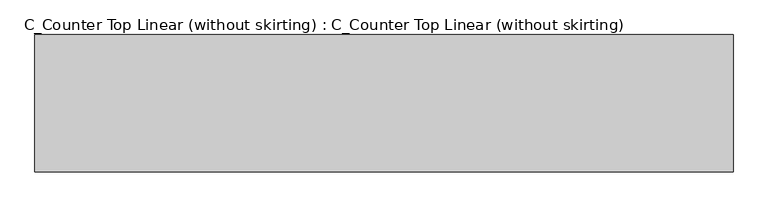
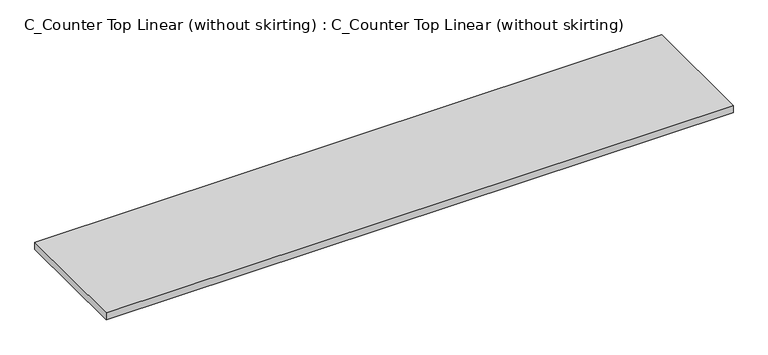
"""IFC4 building model written with IfcOpenShell, lengths in millimetres: furniture geometry, C_Counter Top Linear (without skirting) : C_Counter Top Linear (without skirting)."""

from ifc_helpers import new_model, si_unit, origin, origin_with_axes, place, context, project, spatial, polyline, outline, extrude, source, transform, mapped, element, save


def c_counter_top_linear_without_skirting_c_counter_top_linear_fa51e166(model_context):
    return source(origin(), model_context, "Body", "SweptSolid", [
        extrude(outline(polyline([(1612.9, 0.0), (-1612.9, 0.0), (-1612.9, 635.0), (1612.9, 635.0), (1612.9, 0.0)])), origin_with_axes(), (0.0, 0.0, 1.0), 38.1),
    ])


if __name__ == "__main__":
    model = new_model("IFC4")
    model_context = context("Model", 3, world=origin())
    ifc_project = project(units=[si_unit("LENGTHUNIT", "METRE", prefix="MILLI")], contexts=[model_context])
    site = spatial("IfcSite", under=ifc_project)
    building = spatial("IfcBuilding", under=site)
    placement = place(None, origin())
    c_counter_top_linear_without_skirting_c_counter_top_linear_shape = c_counter_top_linear_without_skirting_c_counter_top_linear_fa51e166(model_context)
    element("IfcFurniture", 1, ObjectType="C_Counter Top Linear (without skirting) : C_Counter Top Linear (without skirting)", at=placement, inside=building, context=model_context, shape_type="MappedRepresentation", body=[
        mapped(c_counter_top_linear_without_skirting_c_counter_top_linear_shape, transform((0.0, 0.0, 0.0), x_axis=(1.0, 0.0, 0.0), y_axis=(0.0, 1.0, 0.0), z_axis=(0.0, 0.0, 1.0))),
    ])
    save(model, "model.ifc")
